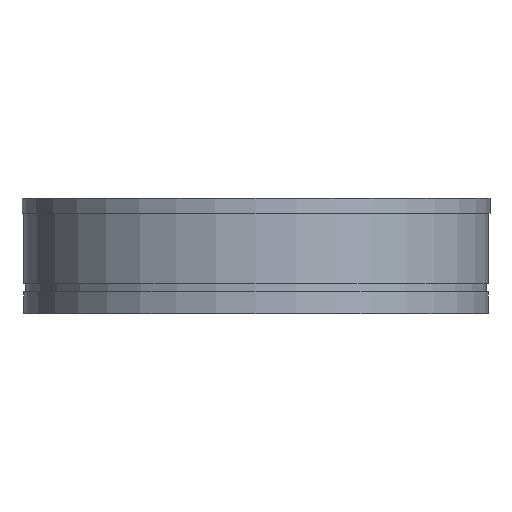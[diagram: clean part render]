
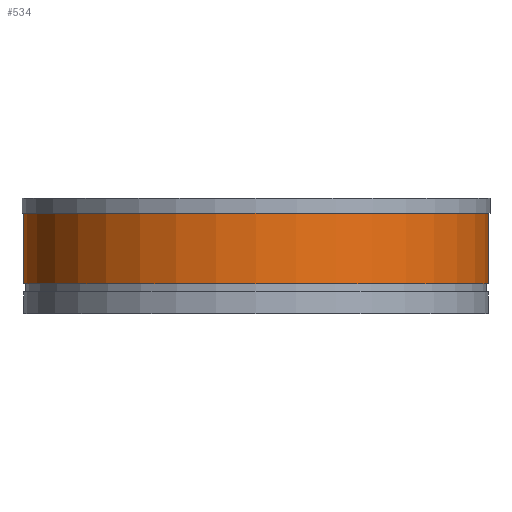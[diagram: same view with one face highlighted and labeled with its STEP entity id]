
A CAD part, left-side view. The second image highlights one B-rep face of the part: STEP entity #534.
In plain terms, the highlighted cylindrical face has radius 30.81 mm (diameter 61.62 mm), a partial arc.
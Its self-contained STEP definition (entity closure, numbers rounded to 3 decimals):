
#38=CYLINDRICAL_SURFACE('',#598,30.81);
#72=FACE_OUTER_BOUND('',#106,.T.);
#106=EDGE_LOOP('',(#478,#479,#480,#481));
#146=CIRCLE('',#587,30.81);
#150=CIRCLE('',#595,30.81);
#182=LINE('',#1108,#214);
#183=LINE('',#1109,#215);
#214=VECTOR('',#753,304.8);
#215=VECTOR('',#754,304.8);
#252=VERTEX_POINT('',#1084);
#253=VERTEX_POINT('',#1086);
#256=VERTEX_POINT('',#1100);
#257=VERTEX_POINT('',#1102);
#321=EDGE_CURVE('',#253,#252,#146,.T.);
#330=EDGE_CURVE('',#256,#257,#150,.T.);
#332=EDGE_CURVE('',#256,#252,#182,.T.);
#333=EDGE_CURVE('',#253,#257,#183,.T.);
#478=ORIENTED_EDGE('',*,*,#321,.T.);
#479=ORIENTED_EDGE('',*,*,#332,.F.);
#480=ORIENTED_EDGE('',*,*,#330,.T.);
#481=ORIENTED_EDGE('',*,*,#333,.F.);
#534=ADVANCED_FACE('',(#72),#38,.T.);
#587=AXIS2_PLACEMENT_3D('',#1087,#724,#725);
#595=AXIS2_PLACEMENT_3D('',#1104,#745,#746);
#598=AXIS2_PLACEMENT_3D('',#1107,#751,#752);
#724=DIRECTION('center_axis',(0.,0.,-1.));
#725=DIRECTION('ref_axis',(0.,1.,0.));
#745=DIRECTION('center_axis',(0.,0.,1.));
#746=DIRECTION('ref_axis',(0.,1.,0.));
#751=DIRECTION('center_axis',(0.,0.,1.));
#752=DIRECTION('ref_axis',(0.,1.,0.));
#753=DIRECTION('',(0.,0.,1.));
#754=DIRECTION('',(0.,0.,-1.));
#1084=CARTESIAN_POINT('',(0.,-30.81,8.987));
#1086=CARTESIAN_POINT('',(0.,30.81,8.987));
#1087=CARTESIAN_POINT('Origin',(0.,0.,8.987));
#1100=CARTESIAN_POINT('',(0.,-30.81,-0.312));
#1102=CARTESIAN_POINT('',(0.,30.81,-0.312));
#1104=CARTESIAN_POINT('Origin',(0.,0.,-0.313));
#1107=CARTESIAN_POINT('Origin',(0.,0.,-206.796));
#1108=CARTESIAN_POINT('',(0.,-30.81,-0.312));
#1109=CARTESIAN_POINT('',(0.,30.81,8.987));
